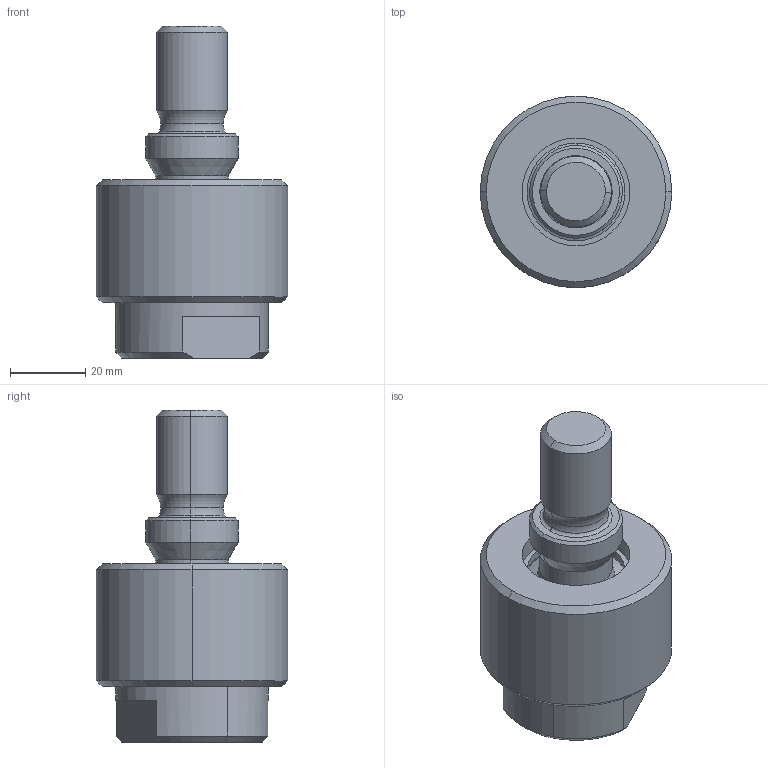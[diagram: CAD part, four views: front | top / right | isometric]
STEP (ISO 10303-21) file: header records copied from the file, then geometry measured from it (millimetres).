
FILE_DESCRIPTION (( 'STEP AP203' ), '1' );
FILE_NAME ('R030-02416.STEP', '2015-02-10T13:36:32', ( '' ), ( '' ), 'SwSTEP 2.0', 'SolidWorks 2014', '' );
FILE_SCHEMA (( 'CONFIG_CONTROL_DESIGN' ));
Length unit declared in the file: inch
Products named in the file (1): R030-02416
Bounding box: 50.8 x 50.8 x 88.06 mm (x, y, z)
Volume: 83363.9 mm3; surface area: 28254.1 mm2
Topology: 5 solids, 5 shells, 92 faces, 200 edges, 120 vertices
Faces by surface type: cylinder 30, cone 21, plane 17, torus 16, sphere 8
Entity records: 2666 total; most frequent: DIRECTION 509, CARTESIAN_POINT 479, ORIENTED_EDGE 396, AXIS2_PLACEMENT_3D 226, EDGE_CURVE 198, CIRCLE 133, VERTEX_POINT 120, EDGE_LOOP 104
